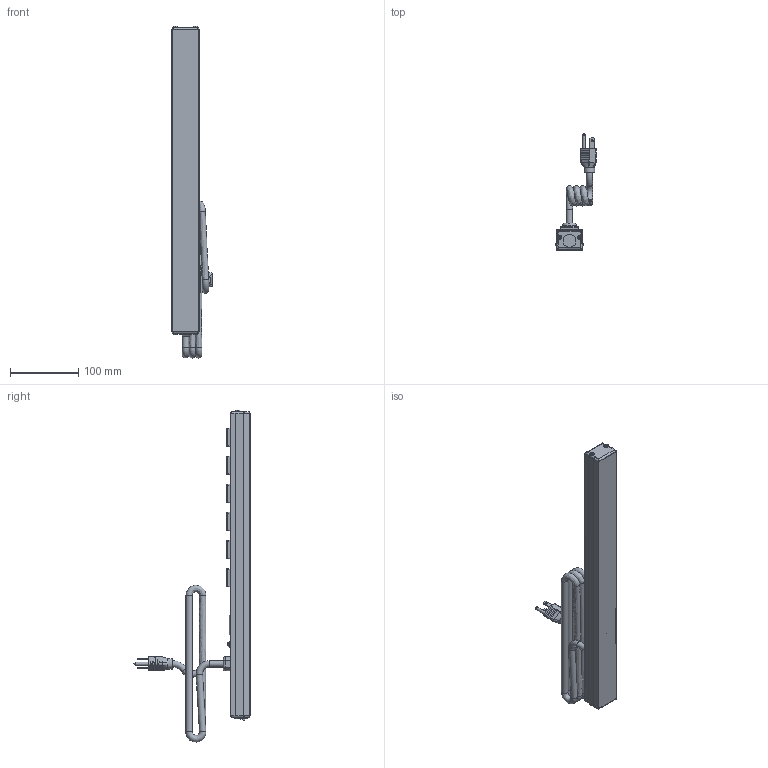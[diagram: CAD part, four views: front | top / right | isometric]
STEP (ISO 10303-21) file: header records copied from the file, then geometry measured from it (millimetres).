
FILE_DESCRIPTION((''),'2;1');
FILE_NAME('E:\Dutton\Manufacturing\drawings\Updated 2009\Vertical Rack Mount Strips\1585 Series\STEP''s\15851T6A1.stp','2010-01-19T07:35:03',('tfoster'),(''),'Autodesk Inventor 2010','Autodesk Inventor 2010','');
FILE_SCHEMA(('AUTOMOTIVE_DESIGN { 1 0 10303 214 1 1 1 1 }'));
Products named in the file (12): 15851T6A1; 15851H6 top; 15851 bottom; End Cap; End Cap w breaker; Reset Switch; #6 - 0.375 Type A screw; Cored 2; toothwasher; round head 1-way 8-32 x 0.5 screw; Receptacle; Pilot light
Assembly tree (19 placements, depth 2):
  15851T6A1
    15851H6 top
    15851 bottom
    End Cap
    End Cap w breaker
    Reset Switch
    #6 - 0.375 Type A screw  x4
    Cored 2
    toothwasher
    round head 1-way 8-32 x 0.5 screw
    Receptacle  x6
    Pilot light
Bounding box: 60.19 x 170.82 x 488.07 mm (x, y, z)
Volume: 310564.2 mm3; surface area: 225762.4 mm2
Topology: 19 solids, 19 shells, 942 faces, 2780 edges, 1874 vertices
Faces by surface type: plane 554, cylinder 215, bspline 105, sphere 30, cone 23, torus 15
Full cylindrical faces by diameter (mm): 1.803 x3, 1.905 x2, 3 x2, 3.175 x12, 4.3 x1, 4.775 x1, 4.826 x1, 7.849 x1, 9.5 x5, 11 x1, 15.621 x1, 19.05 x2
Entity records: 24135 total; most frequent: CARTESIAN_POINT 8618, ORIENTED_EDGE 3354, DIRECTION 2830, EDGE_CURVE 1677, VERTEX_POINT 1191, VECTOR 976, LINE 976, AXIS2_PLACEMENT_3D 927
